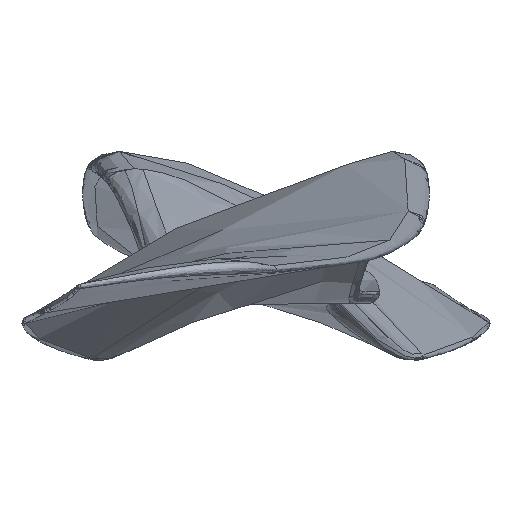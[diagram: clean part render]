
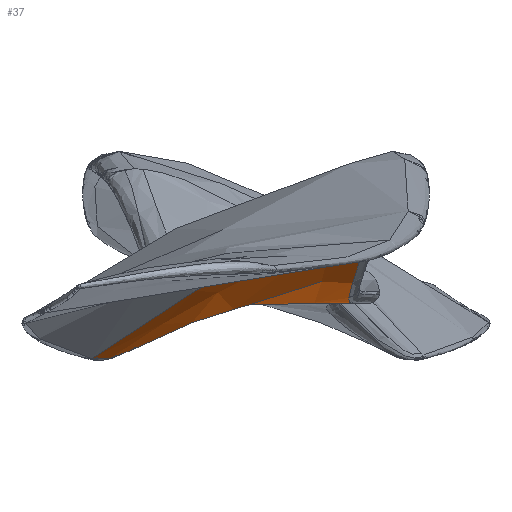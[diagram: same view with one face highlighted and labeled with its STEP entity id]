
A CAD part, left-side view. The second image highlights one B-rep face of the part: STEP entity #37.
In plain terms, the highlighted free-form (B-spline) face has degree [5, 6] with [6, 7] control points.
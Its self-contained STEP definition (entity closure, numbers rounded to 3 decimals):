
#37=ADVANCED_FACE('',(#65),#485,.T.);
#65=FACE_OUTER_BOUND('',#93,.T.);
#93=EDGE_LOOP('',(#219,#220,#221,#222));
#219=ORIENTED_EDGE('',*,*,#320,.F.);
#220=ORIENTED_EDGE('',*,*,#321,.F.);
#221=ORIENTED_EDGE('',*,*,#305,.F.);
#222=ORIENTED_EDGE('',*,*,#331,.T.);
#305=EDGE_CURVE('',#454,#423,#383,.T.);
#320=EDGE_CURVE('',#424,#457,#398,.T.);
#321=EDGE_CURVE('',#423,#424,#399,.T.);
#331=EDGE_CURVE('',#454,#457,#409,.T.);
#383=B_SPLINE_CURVE_WITH_KNOTS('',5,(#2921,#2922,#2923,#2924,#2925,#2926),
 .UNSPECIFIED.,.F.,.F.,(6,6),(0.,36.27),.UNSPECIFIED.);
#398=B_SPLINE_CURVE_WITH_KNOTS('',5,(#3137,#3138,#3139,#3140,#3141,#3142),
 .UNSPECIFIED.,.F.,.F.,(6,6),(-19.299,0.),.UNSPECIFIED.);
#399=B_SPLINE_CURVE_WITH_KNOTS('',3,(#3143,#3144,#3145,#3146,#3147,#3148,
#3149,#3150,#3151,#3152,#3153,#3154,#3155,#3156,#3157,#3158,#3159,#3160,
#3161,#3162,#3163,#3164,#3165,#3166,#3167,#3168,#3169,#3170,#3171,#3172,
#3173,#3174,#3175,#3176),.UNSPECIFIED.,.F.,.F.,(4,3,3,3,3,3,3,3,3,3,3,4),
(-42.685,-40.973,-38.854,-33.706,
-27.289,-20.157,-13.222,-7.356,
-2.994,-1.314,-0.572,0.),
 .UNSPECIFIED.);
#409=B_SPLINE_CURVE_WITH_KNOTS('',3,(#3359,#3360,#3361,#3362,#3363,#3364,
#3365,#3366,#3367,#3368,#3369,#3370,#3371,#3372,#3373,#3374,#3375,#3376,
#3377,#3378,#3379,#3380),.UNSPECIFIED.,.F.,.F.,(4,2,2,2,2,2,2,2,2,2,4),
(-42.951,-39.131,-35.311,-27.67,
-20.029,-12.388,-8.567,-4.747,
-2.836,-0.926,0.),.UNSPECIFIED.);
#423=VERTEX_POINT('',#2415);
#424=VERTEX_POINT('',#2416);
#454=VERTEX_POINT('',#2446);
#457=VERTEX_POINT('',#2449);
#485=B_SPLINE_SURFACE_WITH_KNOTS('',5,6,((#1841,#1842,#1843,#1844,#1845,
#1846,#1847),(#1848,#1849,#1850,#1851,#1852,#1853,#1854),(#1855,#1856,#1857,
#1858,#1859,#1860,#1861),(#1862,#1863,#1864,#1865,#1866,#1867,#1868),(#1869,
#1870,#1871,#1872,#1873,#1874,#1875),(#1876,#1877,#1878,#1879,#1880,#1881,
#1882)),.UNSPECIFIED.,.F.,.F.,.F.,(6,6),(7,7),(0.,46.008),(0.,
43.447),.UNSPECIFIED.);
#1841=CARTESIAN_POINT('',(-64.,-16.193,12.824));
#1842=CARTESIAN_POINT('',(-58.578,-15.311,11.699));
#1843=CARTESIAN_POINT('',(-53.074,-14.522,10.393));
#1844=CARTESIAN_POINT('',(-41.148,-12.786,3.189));
#1845=CARTESIAN_POINT('',(-27.483,-11.37,0.));
#1846=CARTESIAN_POINT('',(-23.763,-11.981,0.));
#1847=CARTESIAN_POINT('',(-19.636,-12.659,0.));
#1848=CARTESIAN_POINT('',(-64.,-12.231,10.469));
#1849=CARTESIAN_POINT('',(-58.602,-11.348,9.223));
#1850=CARTESIAN_POINT('',(-53.242,-10.546,7.728));
#1851=CARTESIAN_POINT('',(-40.305,-8.995,-0.467));
#1852=CARTESIAN_POINT('',(-27.812,-7.215,0.));
#1853=CARTESIAN_POINT('',(-23.773,-7.614,0.));
#1854=CARTESIAN_POINT('',(-19.636,-7.996,0.));
#1855=CARTESIAN_POINT('',(-64.,-4.005,7.82));
#1856=CARTESIAN_POINT('',(-58.399,-4.462,6.393));
#1857=CARTESIAN_POINT('',(-52.855,-5.038,4.709));
#1858=CARTESIAN_POINT('',(-41.794,-4.972,-1.486));
#1859=CARTESIAN_POINT('',(-28.909,-3.06,0.));
#1860=CARTESIAN_POINT('',(-23.854,-3.263,0.));
#1861=CARTESIAN_POINT('',(-19.636,-3.333,0.));
#1862=CARTESIAN_POINT('',(-64.,5.459,2.943));
#1863=CARTESIAN_POINT('',(-58.789,5.791,1.276));
#1864=CARTESIAN_POINT('',(-53.635,6.01,-0.599));
#1865=CARTESIAN_POINT('',(-42.356,2.979,-2.758));
#1866=CARTESIAN_POINT('',(-28.903,0.392,0.));
#1867=CARTESIAN_POINT('',(-24.033,0.961,0.));
#1868=CARTESIAN_POINT('',(-19.636,1.33,0.));
#1869=CARTESIAN_POINT('',(-64.,10.583,-0.259));
#1870=CARTESIAN_POINT('',(-58.404,10.591,-1.923));
#1871=CARTESIAN_POINT('',(-52.841,10.498,-3.737));
#1872=CARTESIAN_POINT('',(-40.385,7.014,-3.836));
#1873=CARTESIAN_POINT('',(-28.38,4.243,0.));
#1874=CARTESIAN_POINT('',(-24.034,5.11,0.));
#1875=CARTESIAN_POINT('',(-19.636,5.993,0.));
#1876=CARTESIAN_POINT('',(-64.,19.425,-6.549));
#1877=CARTESIAN_POINT('',(-58.399,17.93,-6.94));
#1878=CARTESIAN_POINT('',(-52.799,16.367,-7.419));
#1879=CARTESIAN_POINT('',(-40.442,11.311,-3.809));
#1880=CARTESIAN_POINT('',(-28.554,7.511,0.));
#1881=CARTESIAN_POINT('',(-24.116,9.076,0.));
#1882=CARTESIAN_POINT('',(-19.636,10.656,0.));
#2415=CARTESIAN_POINT('',(-64.,-15.21,12.282));
#2416=CARTESIAN_POINT('',(-19.636,-11.554,0.));
#2446=CARTESIAN_POINT('',(-64.,19.38,-6.517));
#2449=CARTESIAN_POINT('',(-19.636,9.5,0.));
#2921=CARTESIAN_POINT('',(-64.,19.38,-6.517));
#2922=CARTESIAN_POINT('',(-64.,10.962,-0.531));
#2923=CARTESIAN_POINT('',(-64.,5.903,2.661));
#2924=CARTESIAN_POINT('',(-64.,-2.761,7.173));
#2925=CARTESIAN_POINT('',(-64.,-10.731,9.965));
#2926=CARTESIAN_POINT('',(-64.,-15.21,12.282));
#3137=CARTESIAN_POINT('',(-19.636,-11.554,0.));
#3138=CARTESIAN_POINT('',(-19.636,-7.343,0.));
#3139=CARTESIAN_POINT('',(-19.636,-3.133,0.));
#3140=CARTESIAN_POINT('',(-19.636,1.078,0.));
#3141=CARTESIAN_POINT('',(-19.636,5.289,0.));
#3142=CARTESIAN_POINT('',(-19.636,9.5,0.));
#3143=CARTESIAN_POINT('',(-64.,-15.21,12.282));
#3144=CARTESIAN_POINT('',(-63.384,-15.112,12.151));
#3145=CARTESIAN_POINT('',(-62.811,-15.021,12.025));
#3146=CARTESIAN_POINT('',(-62.199,-14.926,11.876));
#3147=CARTESIAN_POINT('',(-61.45,-14.809,11.694));
#3148=CARTESIAN_POINT('',(-60.731,-14.698,11.499));
#3149=CARTESIAN_POINT('',(-59.992,-14.587,11.279));
#3150=CARTESIAN_POINT('',(-58.237,-14.322,10.756));
#3151=CARTESIAN_POINT('',(-56.451,-14.063,10.111));
#3152=CARTESIAN_POINT('',(-54.736,-13.82,9.465));
#3153=CARTESIAN_POINT('',(-52.571,-13.513,8.649));
#3154=CARTESIAN_POINT('',(-50.419,-13.219,7.795));
#3155=CARTESIAN_POINT('',(-48.257,-12.934,6.964));
#3156=CARTESIAN_POINT('',(-45.845,-12.617,6.035));
#3157=CARTESIAN_POINT('',(-43.453,-12.317,5.143));
#3158=CARTESIAN_POINT('',(-41.003,-12.036,4.304));
#3159=CARTESIAN_POINT('',(-38.632,-11.765,3.491));
#3160=CARTESIAN_POINT('',(-36.236,-11.517,2.739));
#3161=CARTESIAN_POINT('',(-33.809,-11.321,2.084));
#3162=CARTESIAN_POINT('',(-31.76,-11.156,1.531));
#3163=CARTESIAN_POINT('',(-29.679,-11.029,1.046));
#3164=CARTESIAN_POINT('',(-27.582,-10.994,0.675));
#3165=CARTESIAN_POINT('',(-26.02,-10.968,0.399));
#3166=CARTESIAN_POINT('',(-24.45,-10.992,0.188));
#3167=CARTESIAN_POINT('',(-22.871,-11.13,0.083));
#3168=CARTESIAN_POINT('',(-22.261,-11.183,0.043));
#3169=CARTESIAN_POINT('',(-21.661,-11.252,0.019));
#3170=CARTESIAN_POINT('',(-21.054,-11.337,0.009));
#3171=CARTESIAN_POINT('',(-20.785,-11.375,0.004));
#3172=CARTESIAN_POINT('',(-20.52,-11.416,0.002));
#3173=CARTESIAN_POINT('',(-20.252,-11.457,0.001));
#3174=CARTESIAN_POINT('',(-20.047,-11.489,0.));
#3175=CARTESIAN_POINT('',(-19.842,-11.522,0.));
#3176=CARTESIAN_POINT('',(-19.636,-11.554,0.));
#3359=CARTESIAN_POINT('',(-64.,19.38,-6.517));
#3360=CARTESIAN_POINT('',(-62.661,19.024,-6.615));
#3361=CARTESIAN_POINT('',(-61.326,18.648,-6.693));
#3362=CARTESIAN_POINT('',(-58.67,17.831,-6.677));
#3363=CARTESIAN_POINT('',(-57.353,17.395,-6.596));
#3364=CARTESIAN_POINT('',(-53.434,16.041,-6.186));
#3365=CARTESIAN_POINT('',(-50.864,15.088,-5.717));
#3366=CARTESIAN_POINT('',(-45.748,13.207,-4.655));
#3367=CARTESIAN_POINT('',(-43.198,12.279,-4.06));
#3368=CARTESIAN_POINT('',(-38.051,10.569,-2.868));
#3369=CARTESIAN_POINT('',(-35.45,9.787,-2.266));
#3370=CARTESIAN_POINT('',(-31.47,8.894,-1.421));
#3371=CARTESIAN_POINT('',(-30.128,8.652,-1.149));
#3372=CARTESIAN_POINT('',(-27.412,8.353,-0.654));
#3373=CARTESIAN_POINT('',(-26.037,8.287,-0.429));
#3374=CARTESIAN_POINT('',(-23.973,8.427,-0.183));
#3375=CARTESIAN_POINT('',(-23.286,8.516,-0.118));
#3376=CARTESIAN_POINT('',(-21.926,8.784,-0.031));
#3377=CARTESIAN_POINT('',(-21.253,8.963,-0.009));
#3378=CARTESIAN_POINT('',(-20.272,9.279,-0.001));
#3379=CARTESIAN_POINT('',(-19.954,9.388,0.));
#3380=CARTESIAN_POINT('',(-19.636,9.5,0.));
